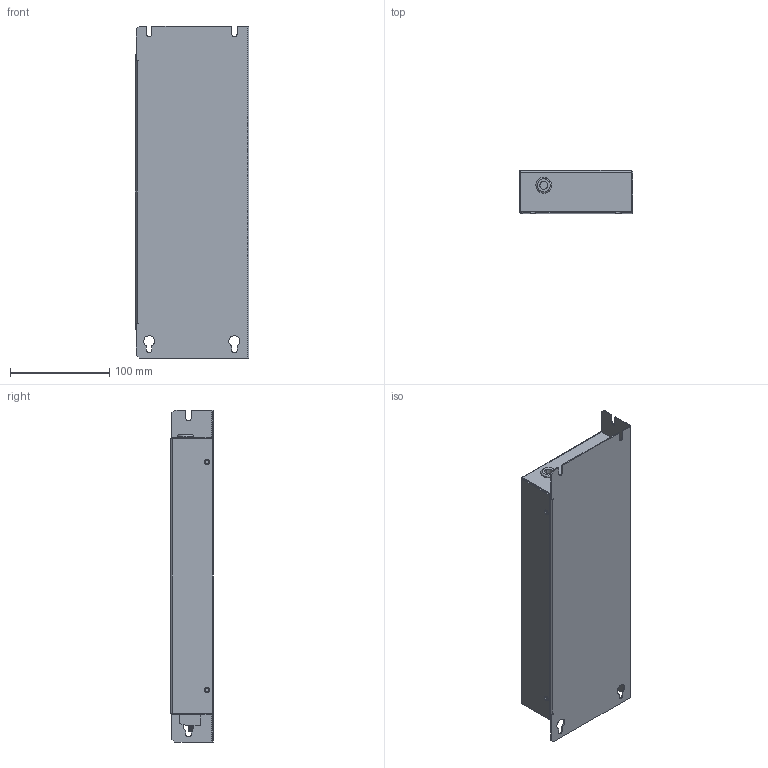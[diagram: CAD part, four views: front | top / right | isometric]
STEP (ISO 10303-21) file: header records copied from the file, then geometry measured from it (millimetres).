
FILE_DESCRIPTION (( 'STEP AP203' ), '1' );
FILE_NAME ('M400-4.STEP', '2016-09-07T08:38:15', ( '' ), ( '' ), 'SwSTEP 2.0', 'SolidWorks 2016', '' );
FILE_SCHEMA (( 'CONFIG_CONTROL_DESIGN' ));
Length unit declared in the file: millimetre
Products named in the file (11): VDFK-4; hex screw_am_B18.6.7M - M5 x 0.8 x 13 Indented HHMS --13S; M400-4; VDFK4x3; Grommet_15080; M400-4 back; flat washer narrow_am_B18.22M - Plain washer, 5 mm, narrow; M400-4 box; hex nut style 1_am_B18.2.4.1M - Hex nut, Style 1,  M5 x 0.8 --D-N; M4 Hank 0.6mm; M5x13 Earth post
Assembly tree (18 placements, depth 3):
  M400-4
    M400-4 back
    M400-4 box
    M4 Hank 0.6mm  x6
    Grommet_15080
    M5x13 Earth post
      hex screw_am_B18.6.7M - M5 x 0.8 x 13 Indented HHMS --13S
      flat washer narrow_am_B18.22M - Plain washer, 5 mm, narrow  x2
      hex nut style 1_am_B18.2.4.1M - Hex nut, Style 1,  M5 x 0.8 --D-N
    VDFK4x3
      VDFK-4  x3
Bounding box: 115 x 43 x 335 mm (x, y, z)
Volume: 139000.7 mm3; surface area: 226124.6 mm2
Topology: 16 solids, 16 shells, 519 faces, 1237 edges, 772 vertices
Faces by surface type: plane 216, cylinder 163, cone 132, bspline 4, torus 4
Entity records: 12568 total; most frequent: CARTESIAN_POINT 2210, DIRECTION 2013, ORIENTED_EDGE 1794, EDGE_CURVE 897, AXIS2_PLACEMENT_3D 777, VERTEX_POINT 558, VECTOR 459, LINE 459
